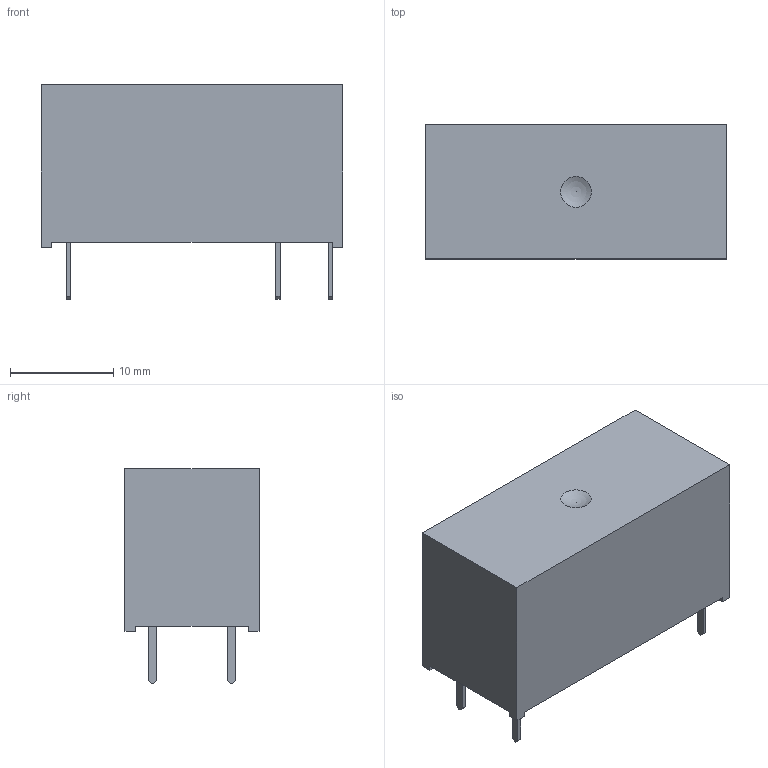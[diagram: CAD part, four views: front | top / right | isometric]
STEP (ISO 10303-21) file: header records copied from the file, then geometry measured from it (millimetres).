
FILE_DESCRIPTION((''),'2;1');
FILE_NAME('C:\Vault_local\Designs\Stock\3D pour clients\préparations\2D3D 500\2D3D 581 A.stp','2011-01-10T11:15:15',('Georges THOLLOT ','Responsible for','Methods and Industrialization',' Tl : +33 (0)4 77 53 90 27','gthollot@celduc.com'),('Celduc r e l a i s','5, rue Ampre, BP 30004','42290 SORBIERS - France','Fax. : +33 (0)4 77 53 85 51','N siret 353 310 519 00015','ISO 9001 N QUAL/1993/1106b','www.celduc.com'),'Autodesk Inventor 2010','Autodesk Inventor 2010','');
FILE_SCHEMA(('AUTOMOTIVE_DESIGN { 1 0 10303 214 1 1 1 1 }'));
Length unit declared in the file: millimetre
Products named in the file (1): STA STD
Bounding box: 29.2 x 13 x 20.85 mm (x, y, z)
Volume: 5815 mm3; surface area: 2111.2 mm2
Topology: 1 solids, 1 shells, 55 faces, 172 edges, 143 vertices
Faces by surface type: plane 38, bspline 16, sphere 1
Entity records: 2032 total; most frequent: CARTESIAN_POINT 390, ORIENTED_EDGE 290, DIRECTION 254, VECTOR 164, LINE 164, EDGE_CURVE 145, VERTEX_POINT 97, STYLED_ITEM 80
